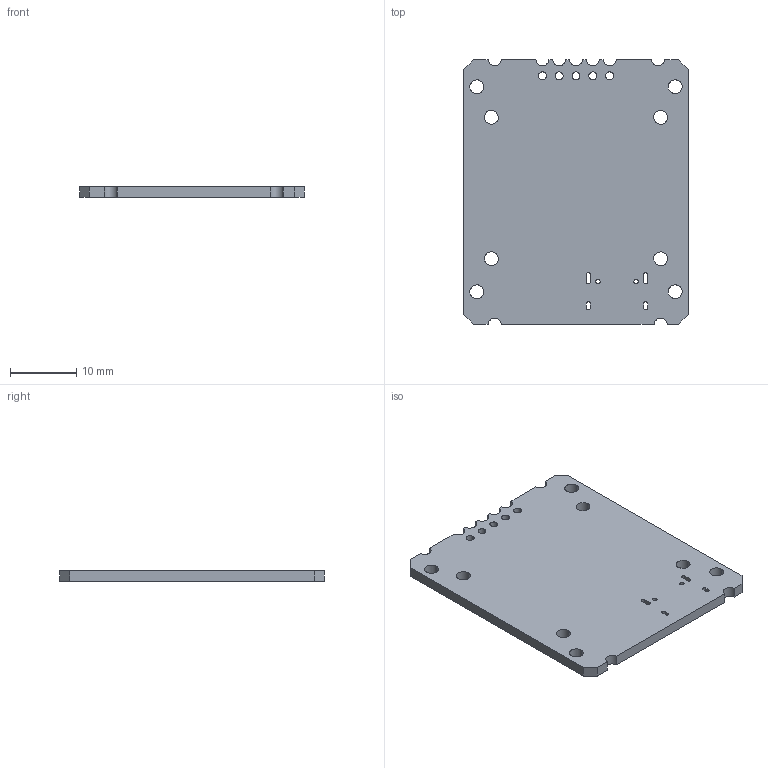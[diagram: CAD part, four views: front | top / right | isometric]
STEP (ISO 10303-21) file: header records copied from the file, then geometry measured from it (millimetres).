
FILE_DESCRIPTION(/* description */ (''),/* implementation_level */ '2;1');
FILE_NAME(/* name */ 'TM151_~2',/* time_stamp */ '2025-11-20T23:32:06+08:00',/* author */ (''),/* organization */ (''),/* preprocessor_version */ 'ST-DEVELOPER v15',/* originating_system */ '',/* authorisation */ '');
FILE_SCHEMA (('AUTOMOTIVE_DESIGN'));
Length unit declared in the file: millimetre
Products named in the file (2): Document; PCB_581_underBoard PCB
Assembly tree (1 placements, depth 2):
  Document
    PCB_581_underBoard PCB
Bounding box: 34 x 40 x 1.6 mm (x, y, z)
Volume: 2089.5 mm3; surface area: 3001.1 mm2
Topology: 1 solids, 1 shells, 74 faces, 216 edges, 144 vertices
Faces by surface type: bspline 47, plane 27
Entity records: 2846 total; most frequent: CARTESIAN_POINT 1495, ORIENTED_EDGE 432, EDGE_CURVE 216, VERTEX_POINT 144, B_SPLINE_CURVE_WITH_KNOTS 122, EDGE_LOOP 112, ADVANCED_FACE 74, FACE_OUTER_BOUND 74
